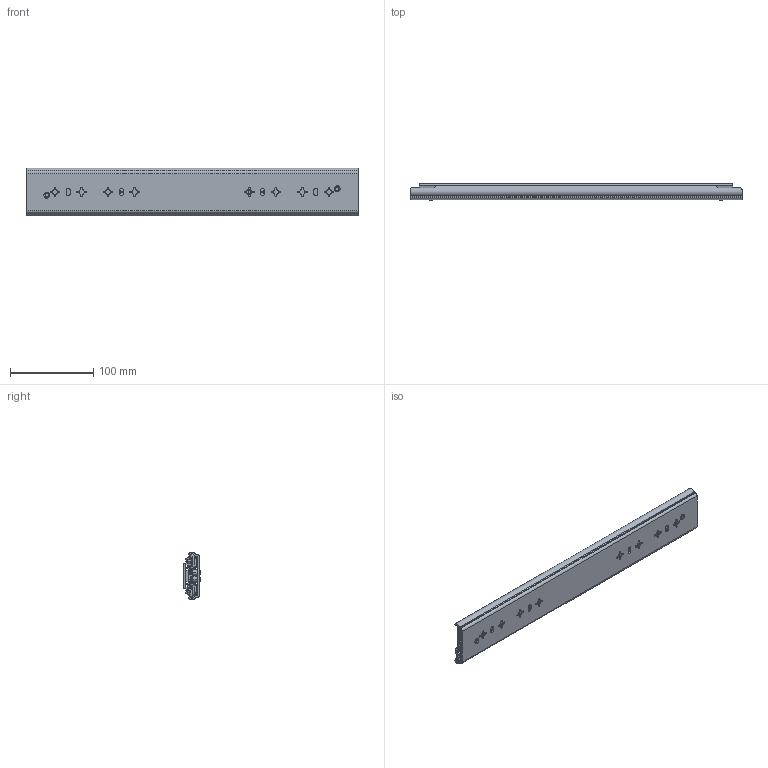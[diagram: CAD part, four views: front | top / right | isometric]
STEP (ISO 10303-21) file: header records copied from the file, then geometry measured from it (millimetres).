
FILE_DESCRIPTION((''),'2;1');
FILE_NAME('1057-C-16_ASM','2023-11-23T',('jishu015'),(''),'PRO/ENGINEER BY PARAMETRIC TECHNOLOGY CORPORATION, 2010280','PRO/ENGINEER BY PARAMETRIC TECHNOLOGY CORPORATION, 2010280','');
FILE_SCHEMA(('CONFIG_CONTROL_DESIGN'));
Length unit declared in the file: millimetre
Products named in the file (19): KP-57-01WEIKE-31__; MAODING-WAI__; 1057DAZHUJIA-20GE1__; 1057ZHUJIADANWEIJIAO12________; 1057-5-6GANZHU1__; 1057DAZHUJIA-20GE_11______ASM; 1057-C-20-KE___ASM; KP-57-01ZHONGGUI-28_______; PEIJIAN-22__; ZHUANJIAO112__; LIUJIAO-DING11__; MAODING-P__; PEIJIAN-ZHONG___ASM; 1057XIAOZHUJIA___20___; 1057XIAOZHUJIA-20GE____ASM; KP-57-01ZHONGGUI-28________ASM; KP-57-01NEIGUI-241__; KP-57-01NEIGUI-241___ASM; 1057-C-16_ASM
Assembly tree (64 placements, depth 4):
  1057-C-16_ASM
    1057-C-20-KE___ASM
      KP-57-01WEIKE-31__
      MAODING-WAI__  x2
      1057DAZHUJIA-20GE_11______ASM
        1057DAZHUJIA-20GE1__
        1057ZHUJIADANWEIJIAO12________  x2
        1057-5-6GANZHU1__  x20
    KP-57-01ZHONGGUI-28________ASM
      KP-57-01ZHONGGUI-28_______
      PEIJIAN-ZHONG___ASM  x2
        PEIJIAN-22__
        ZHUANJIAO112__
        LIUJIAO-DING11__
        MAODING-P__
      MAODING-WAI__  x2
      1057XIAOZHUJIA-20GE____ASM
        1057XIAOZHUJIA___20___
        1057-5-6GANZHU1__  x20
        1057ZHUJIADANWEIJIAO12________  x2
    KP-57-01NEIGUI-241___ASM
      KP-57-01NEIGUI-241__
Bounding box: 400 x 19.8 x 57.67 mm (x, y, z)
Volume: 165514.2 mm3; surface area: 188623.2 mm2
Topology: 61 solids, 61 shells, 2028 faces, 5564 edges, 3492 vertices
Faces by surface type: plane 904, cylinder 794, torus 88, sphere 86, cone 82, bspline 74
Entity records: 53712 total; most frequent: CARTESIAN_POINT 11931, DIRECTION 8826, ORIENTED_EDGE 8670, EDGE_CURVE 4335, AXIS2_PLACEMENT_3D 3086, VERTEX_POINT 2796, VECTOR 2654, LINE 2654
